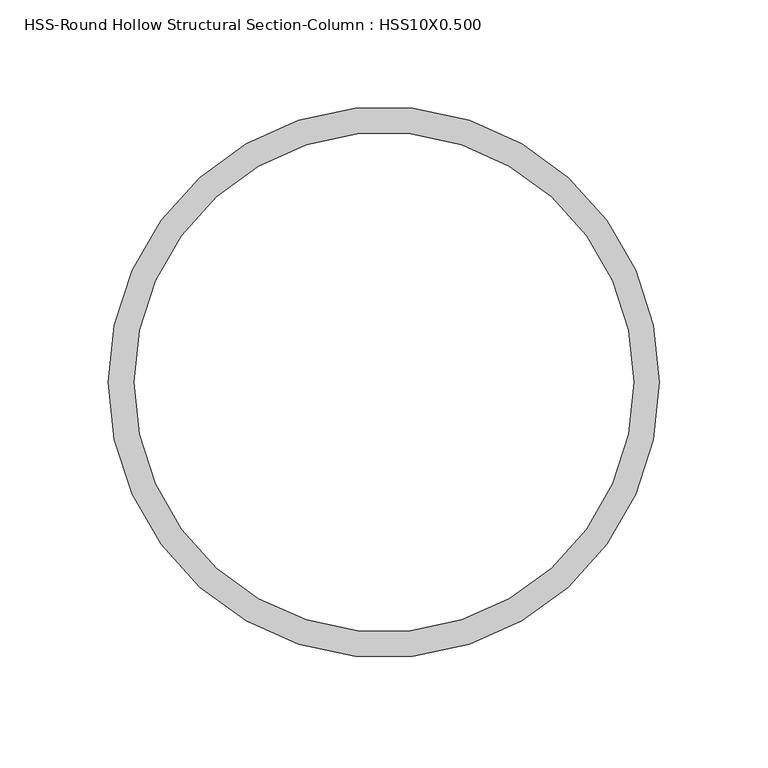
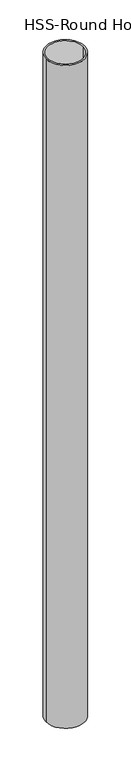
"""IFC4 building model written with IfcOpenShell, lengths in millimetres: column geometry, HSS-Round Hollow Structural Section-Column : HSS10X0.500."""

from ifc_helpers import new_model, si_unit, point, frame, origin, origin_2d, place, context, project, spatial, circle_curve, trimmed, segment, composite_curve, outline, extrude, source, transform, mapped, element, save


def hss_round_hollow_structural_section_column_hss10x0_500_838e436f(model_context):
    return source(origin(), model_context, "Body", "SweptSolid", [
        extrude(outline(composite_curve([segment(trimmed(circle_curve(origin_2d(), 127.0), [point((-127.0, 0.0))], [point((127.0, 0.0))], False, "CARTESIAN"), True, "CONTINUOUS"), segment(trimmed(circle_curve(origin_2d(), 127.0), [point((127.0, 0.0))], [point((-127.0, 0.0))], False, "CARTESIAN"), True, "CONTINUOUS")], self_intersect=False), holes=[composite_curve([segment(trimmed(circle_curve(origin_2d(), 115.189), [point((-115.189, 0.0))], [point((115.189, 0.0))], True, "CARTESIAN"), True, "CONTINUOUS"), segment(trimmed(circle_curve(origin_2d(), 115.189), [point((115.189, 0.0))], [point((-115.189, 0.0))], True, "CARTESIAN"), True, "CONTINUOUS")], self_intersect=False)]), frame((0.0, 0.0, 5969.0), z_axis=(0.0, 0.0, 1.0), x_axis=(1.0, 0.0, 0.0)), (0.0, 0.0, 1.0), 4572.0),
    ])


if __name__ == "__main__":
    model = new_model("IFC4")
    model_context = context("Model", 3, world=origin())
    ifc_project = project(units=[si_unit("LENGTHUNIT", "METRE", prefix="MILLI")], contexts=[model_context])
    site = spatial("IfcSite", under=ifc_project)
    building = spatial("IfcBuilding", under=site)
    placement = place(None, origin())
    hss_round_hollow_structural_section_column_hss10x0_500_shape = hss_round_hollow_structural_section_column_hss10x0_500_838e436f(model_context)
    element("IfcColumn", 1, ObjectType="HSS-Round Hollow Structural Section-Column : HSS10X0.500", at=placement, inside=building, context=model_context, shape_type="MappedRepresentation", body=[
        mapped(hss_round_hollow_structural_section_column_hss10x0_500_shape, transform((0.0, 0.0, 0.0), x_axis=(1.0, 0.0, 0.0), y_axis=(0.0, 1.0, 0.0), z_axis=(0.0, 0.0, 1.0))),
    ])
    save(model, "model.ifc")
